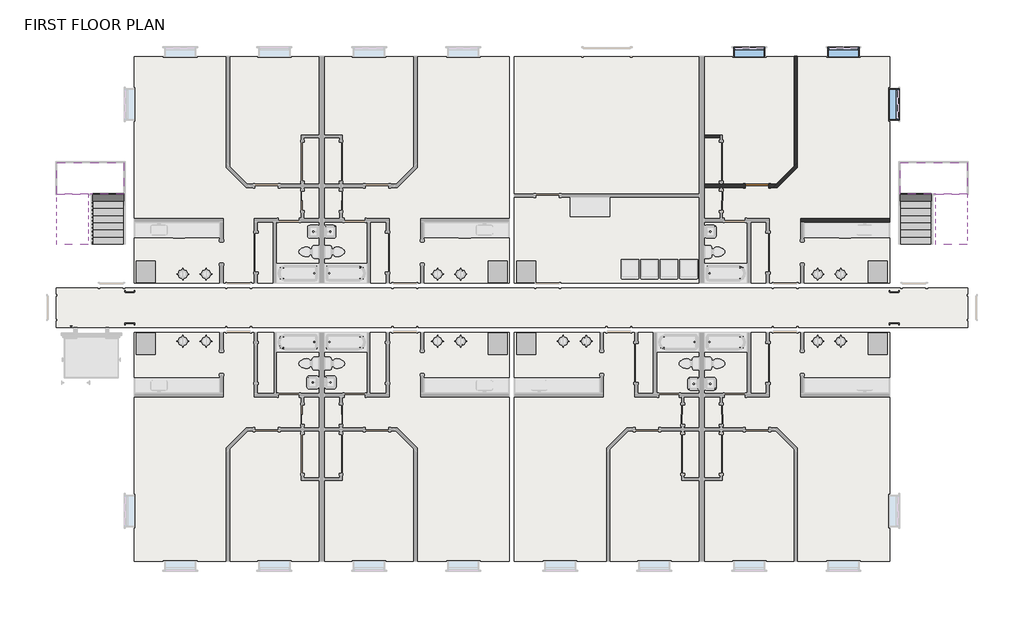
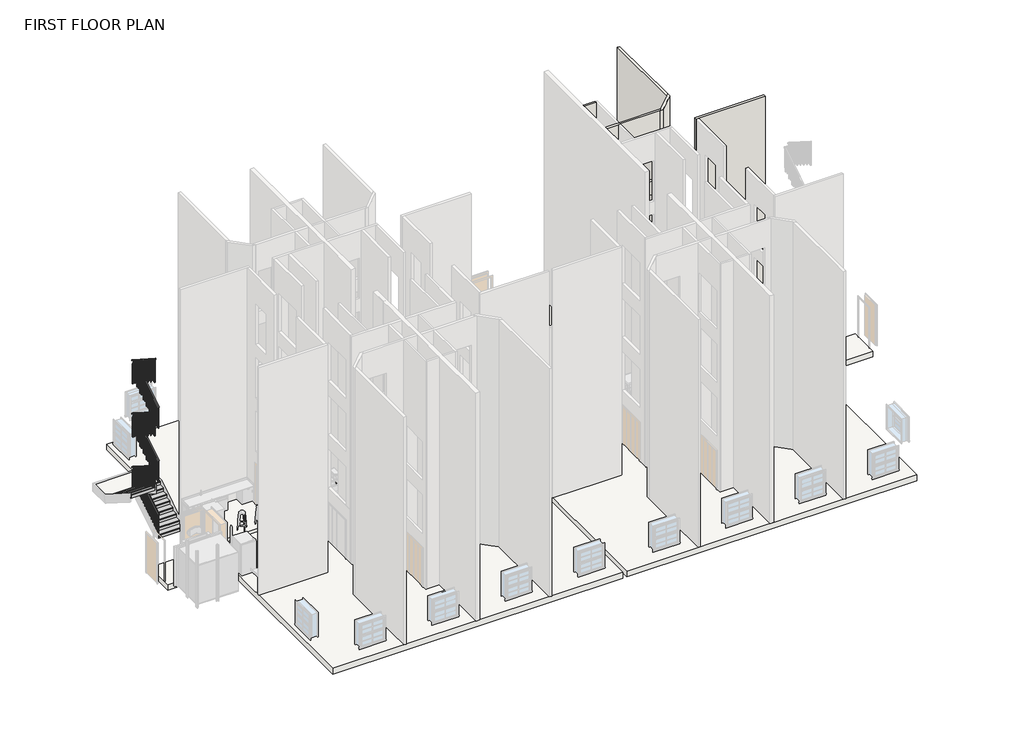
# One storey, part 4 of 7: 5 walls, 4 stair flights, 3 slabs, 3 windows, 1 door, 1 railing.
"""IFC4 building model written with IfcOpenShell, lengths in millimetres."""

from ifc_helpers import new_model, si_unit, frame, origin, origin_with_axes, place, context, project, spatial, polyline, outline, extrude, faceted_brep, transform, mapped, element, save
from components import m_single_flush_3_x_7_d4803db9, non_monolithic_landing_3aaa77b9, non_monolithic_landing_68e59602, stair_flight_54686f99, stair_flight_03273884, stair_flight_f8b69583, stair_flight_ad402a87, window_28d7aabf

model = new_model("IFC4")

# Units and contexts
model_context = context("Model", 3, world=origin())
ifc_project = project(units=[si_unit("LENGTHUNIT", "METRE", prefix="MILLI")], contexts=[model_context])

# Site, building, storey
site = spatial("IfcSite", under=ifc_project)
building = spatial("IfcBuilding", under=site)
storey = spatial("IfcBuildingStorey", under=building, Name="FIRST FLOOR PLAN", Elevation=0.0)

# Door
placement = place(None, origin())
m_single_flush_3_x_7_shape = m_single_flush_3_x_7_d4803db9(model_context)
element("IfcDoor", 1, ObjectType="M_Single-Flush : 3' x 7'", at=placement, inside=storey, context=model_context, shape_type="MappedRepresentation", body=[
    mapped(m_single_flush_3_x_7_shape, transform((19089.7959875, 10252.9512881, 0.0), x_axis=(1.0, 0.0, 0.0), y_axis=(0.0, 1.0, 0.0), z_axis=(0.0, 0.0, 1.0))),
])

# Railing
element("IfcRailing", 2, ObjectType="1100mm", at=placement, inside=storey, context=model_context, shape_type="SweptSolid", body=[
    extrude(outline(polyline([(0.0, -50.0), (0.0, 0.0), (2318.2283753, 0.0), (2318.2283753, -50.0), (0.0, -50.0)])), frame((-6841.4915125, 8008.8443747, 6925.2169259), z_axis=(0.0, -0.5368754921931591, 0.8436614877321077), x_axis=(0.0, 0.8436614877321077, 0.5368754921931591)), (0.0, 0.0, 1.0), 50.0),
    extrude(outline(polyline([(-6791.4915125, 9963.2006), (-6791.4915125, 9913.2006), (-6969.406756, 9913.2006), (-6969.406756, 9963.2006), (-6791.4915125, 9963.2006)])), frame((0.0, 0.0, 8162.0000003), z_axis=(0.0, 0.0, 1.0), x_axis=(1.0, 0.0, 0.0)), (0.0, 0.0, 1.0), 50.0),
    extrude(outline(polyline([(9963.2006, 8373.6363639), (9963.2006, 8314.3708875), (7982.0006, 9575.1345239), (7982.0006, 9634.4000003), (9963.2006, 8373.6363639)])), frame((-7019.406756, 0.0, 0.0), z_axis=(1.0, 0.0, 0.0), x_axis=(0.0, 1.0, 0.0)), (0.0, 0.0, 1.0), 50.0),
    extrude(outline(polyline([(8064.7506, 8356.6000003), (8039.7506, 8356.6000003), (8039.7506, 9547.6500003), (8064.7506, 9531.7409094), (8064.7506, 8356.6000003)])), frame((-7006.906756, 0.0, 0.0), z_axis=(1.0, 0.0, 0.0), x_axis=(0.0, 1.0, 0.0)), (0.0, 0.0, 1.0), 25.0),
    extrude(outline(polyline([(8204.4506, 8356.6000003), (8179.4506, 8356.6000003), (8179.4506, 9458.7500003), (8204.4506, 9442.8409094), (8204.4506, 8356.6000003)])), frame((-7006.906756, 0.0, 0.0), z_axis=(1.0, 0.0, 0.0), x_axis=(0.0, 1.0, 0.0)), (0.0, 0.0, 1.0), 25.0),
    extrude(outline(polyline([(8344.1506, 8178.8000003), (8319.1506, 8178.8000003), (8319.1506, 9369.8500003), (8344.1506, 9353.9409094), (8344.1506, 8178.8000003)])), frame((-7006.906756, 0.0, 0.0), z_axis=(1.0, 0.0, 0.0), x_axis=(0.0, 1.0, 0.0)), (0.0, 0.0, 1.0), 25.0),
    extrude(outline(polyline([(8483.8506, 8178.8000003), (8458.8506, 8178.8000003), (8458.8506, 9280.9500003), (8483.8506, 9265.0409094), (8483.8506, 8178.8000003)])), frame((-7006.906756, 0.0, 0.0), z_axis=(1.0, 0.0, 0.0), x_axis=(0.0, 1.0, 0.0)), (0.0, 0.0, 1.0), 25.0),
    extrude(outline(polyline([(8623.5506, 8001.0000003), (8598.5506, 8001.0000003), (8598.5506, 9192.0500003), (8623.5506, 9176.1409094), (8623.5506, 8001.0000003)])), frame((-7006.906756, 0.0, 0.0), z_axis=(1.0, 0.0, 0.0), x_axis=(0.0, 1.0, 0.0)), (0.0, 0.0, 1.0), 25.0),
    extrude(outline(polyline([(8763.2506, 8001.0000003), (8738.2506, 8001.0000003), (8738.2506, 9103.1500003), (8763.2506, 9087.2409094), (8763.2506, 8001.0000003)])), frame((-7006.906756, 0.0, 0.0), z_axis=(1.0, 0.0, 0.0), x_axis=(0.0, 1.0, 0.0)), (0.0, 0.0, 1.0), 25.0),
    extrude(outline(polyline([(8902.9506, 7823.2000003), (8877.9506, 7823.2000003), (8877.9506, 9014.2500003), (8902.9506, 8998.3409094), (8902.9506, 7823.2000003)])), frame((-7006.906756, 0.0, 0.0), z_axis=(1.0, 0.0, 0.0), x_axis=(0.0, 1.0, 0.0)), (0.0, 0.0, 1.0), 25.0),
    extrude(outline(polyline([(9042.6506, 7823.2000003), (9017.6506, 7823.2000003), (9017.6506, 8925.3500003), (9042.6506, 8909.4409094), (9042.6506, 7823.2000003)])), frame((-7006.906756, 0.0, 0.0), z_axis=(1.0, 0.0, 0.0), x_axis=(0.0, 1.0, 0.0)), (0.0, 0.0, 1.0), 25.0),
    extrude(outline(polyline([(9182.3506, 7645.4000003), (9157.3506, 7645.4000003), (9157.3506, 8836.4500003), (9182.3506, 8820.5409094), (9182.3506, 7645.4000003)])), frame((-7006.906756, 0.0, 0.0), z_axis=(1.0, 0.0, 0.0), x_axis=(0.0, 1.0, 0.0)), (0.0, 0.0, 1.0), 25.0),
    extrude(outline(polyline([(9322.0506, 7645.4000003), (9297.0506, 7645.4000003), (9297.0506, 8747.5500003), (9322.0506, 8731.6409094), (9322.0506, 7645.4000003)])), frame((-7006.906756, 0.0, 0.0), z_axis=(1.0, 0.0, 0.0), x_axis=(0.0, 1.0, 0.0)), (0.0, 0.0, 1.0), 25.0),
    extrude(outline(polyline([(9461.7506, 7467.6000003), (9436.7506, 7467.6000003), (9436.7506, 8658.6500003), (9461.7506, 8642.7409094), (9461.7506, 7467.6000003)])), frame((-7006.906756, 0.0, 0.0), z_axis=(1.0, 0.0, 0.0), x_axis=(0.0, 1.0, 0.0)), (0.0, 0.0, 1.0), 25.0),
    extrude(outline(polyline([(9601.4506, 7467.6000003), (9576.4506, 7467.6000003), (9576.4506, 8569.7500003), (9601.4506, 8553.8409094), (9601.4506, 7467.6000003)])), frame((-7006.906756, 0.0, 0.0), z_axis=(1.0, 0.0, 0.0), x_axis=(0.0, 1.0, 0.0)), (0.0, 0.0, 1.0), 25.0),
    extrude(outline(polyline([(9741.1506, 7289.8000003), (9716.1506, 7289.8000003), (9716.1506, 8480.8500003), (9741.1506, 8464.9409094), (9741.1506, 7289.8000003)])), frame((-7006.906756, 0.0, 0.0), z_axis=(1.0, 0.0, 0.0), x_axis=(0.0, 1.0, 0.0)), (0.0, 0.0, 1.0), 25.0),
    extrude(outline(polyline([(9880.8506, 7289.8000003), (9855.8506, 7289.8000003), (9855.8506, 8391.9500003), (9880.8506, 8376.0409094), (9880.8506, 7289.8000003)])), frame((-7006.906756, 0.0, 0.0), z_axis=(1.0, 0.0, 0.0), x_axis=(0.0, 1.0, 0.0)), (0.0, 0.0, 1.0), 25.0),
    extrude(outline(polyline([(-6873.8415125, 9925.7006), (-6898.8415125, 9925.7006), (-6898.8415125, 9950.7006), (-6873.8415125, 9950.7006), (-6873.8415125, 9925.7006)])), frame((0.0, 0.0, 7112.0000003), z_axis=(0.0, 0.0, 1.0), x_axis=(1.0, 0.0, 0.0)), (0.0, 0.0, 1.0), 1050.0),
    extrude(outline(polyline([(9855.4506, 8109.5954549), (9880.4506, 8125.5045458), (9880.4506, 6934.2000003), (9855.4506, 6934.2000003), (9855.4506, 8109.5954549)])), frame((-6828.9915125, 0.0, 0.0), z_axis=(1.0, 0.0, 0.0), x_axis=(0.0, 1.0, 0.0)), (0.0, 0.0, 1.0), 25.0),
    extrude(outline(polyline([(9715.7506, 8020.6954549), (9740.7506, 8036.6045458), (9740.7506, 6934.2000003), (9715.7506, 6934.2000003), (9715.7506, 8020.6954549)])), frame((-6828.9915125, 0.0, 0.0), z_axis=(1.0, 0.0, 0.0), x_axis=(0.0, 1.0, 0.0)), (0.0, 0.0, 1.0), 25.0),
    extrude(outline(polyline([(9576.0506, 7931.7954549), (9601.0506, 7947.7045458), (9601.0506, 6756.4000003), (9576.0506, 6756.4000003), (9576.0506, 7931.7954549)])), frame((-6828.9915125, 0.0, 0.0), z_axis=(1.0, 0.0, 0.0), x_axis=(0.0, 1.0, 0.0)), (0.0, 0.0, 1.0), 25.0),
    extrude(outline(polyline([(9436.3506, 7842.8954549), (9461.3506, 7858.8045458), (9461.3506, 6756.4000003), (9436.3506, 6756.4000003), (9436.3506, 7842.8954549)])), frame((-6828.9915125, 0.0, 0.0), z_axis=(1.0, 0.0, 0.0), x_axis=(0.0, 1.0, 0.0)), (0.0, 0.0, 1.0), 25.0),
    extrude(outline(polyline([(9296.6506, 7753.9954549), (9321.6506, 7769.9045458), (9321.6506, 6578.6000003), (9296.6506, 6578.6000003), (9296.6506, 7753.9954549)])), frame((-6828.9915125, 0.0, 0.0), z_axis=(1.0, 0.0, 0.0), x_axis=(0.0, 1.0, 0.0)), (0.0, 0.0, 1.0), 25.0),
    extrude(outline(polyline([(9156.9506, 7665.0954549), (9181.9506, 7681.0045458), (9181.9506, 6578.6000003), (9156.9506, 6578.6000003), (9156.9506, 7665.0954549)])), frame((-6828.9915125, 0.0, 0.0), z_axis=(1.0, 0.0, 0.0), x_axis=(0.0, 1.0, 0.0)), (0.0, 0.0, 1.0), 25.0),
    extrude(outline(polyline([(9017.2506, 7576.1954549), (9042.2506, 7592.1045458), (9042.2506, 6400.8000003), (9017.2506, 6400.8000003), (9017.2506, 7576.1954549)])), frame((-6828.9915125, 0.0, 0.0), z_axis=(1.0, 0.0, 0.0), x_axis=(0.0, 1.0, 0.0)), (0.0, 0.0, 1.0), 25.0),
    extrude(outline(polyline([(8877.5506, 7487.2954549), (8902.5506, 7503.2045458), (8902.5506, 6400.8000003), (8877.5506, 6400.8000003), (8877.5506, 7487.2954549)])), frame((-6828.9915125, 0.0, 0.0), z_axis=(1.0, 0.0, 0.0), x_axis=(0.0, 1.0, 0.0)), (0.0, 0.0, 1.0), 25.0),
    extrude(outline(polyline([(8737.8506, 7398.3954549), (8762.8506, 7414.3045458), (8762.8506, 6223.0000003), (8737.8506, 6223.0000003), (8737.8506, 7398.3954549)])), frame((-6828.9915125, 0.0, 0.0), z_axis=(1.0, 0.0, 0.0), x_axis=(0.0, 1.0, 0.0)), (0.0, 0.0, 1.0), 25.0),
    extrude(outline(polyline([(8598.1506, 7309.4954549), (8623.1506, 7325.4045458), (8623.1506, 6223.0000003), (8598.1506, 6223.0000003), (8598.1506, 7309.4954549)])), frame((-6828.9915125, 0.0, 0.0), z_axis=(1.0, 0.0, 0.0), x_axis=(0.0, 1.0, 0.0)), (0.0, 0.0, 1.0), 25.0),
    extrude(outline(polyline([(8458.4506, 7220.5954549), (8483.4506, 7236.5045458), (8483.4506, 6045.2000003), (8458.4506, 6045.2000003), (8458.4506, 7220.5954549)])), frame((-6828.9915125, 0.0, 0.0), z_axis=(1.0, 0.0, 0.0), x_axis=(0.0, 1.0, 0.0)), (0.0, 0.0, 1.0), 25.0),
    extrude(outline(polyline([(8318.7506, 7131.6954549), (8343.7506, 7147.6045458), (8343.7506, 6045.2000003), (8318.7506, 6045.2000003), (8318.7506, 7131.6954549)])), frame((-6828.9915125, 0.0, 0.0), z_axis=(1.0, 0.0, 0.0), x_axis=(0.0, 1.0, 0.0)), (0.0, 0.0, 1.0), 25.0),
    extrude(outline(polyline([(8179.0506, 7042.7954549), (8204.0506, 7058.7045458), (8204.0506, 5867.4000003), (8179.0506, 5867.4000003), (8179.0506, 7042.7954549)])), frame((-6828.9915125, 0.0, 0.0), z_axis=(1.0, 0.0, 0.0), x_axis=(0.0, 1.0, 0.0)), (0.0, 0.0, 1.0), 25.0),
    extrude(outline(polyline([(8039.3506, 6953.8954549), (8064.3506, 6969.8045458), (8064.3506, 5867.4000003), (8039.3506, 5867.4000003), (8039.3506, 6953.8954549)])), frame((-6828.9915125, 0.0, 0.0), z_axis=(1.0, 0.0, 0.0), x_axis=(0.0, 1.0, 0.0)), (0.0, 0.0, 1.0), 25.0),
    extrude(outline(polyline([(-6981.906756, 9925.7006), (-7006.906756, 9925.7006), (-7006.906756, 9950.7006), (-6981.906756, 9950.7006), (-6981.906756, 9925.7006)])), frame((0.0, 0.0, 7112.0000003), z_axis=(0.0, 0.0, 1.0), x_axis=(1.0, 0.0, 0.0)), (0.0, 0.0, 1.0), 1050.0),
    extrude(outline(polyline([(-6828.9915125, 9925.7006), (-6828.9915125, 9950.7006), (-6803.9915125, 9950.7006), (-6803.9915125, 9925.7006), (-6828.9915125, 9925.7006)])), frame((0.0, 0.0, 7112.0000003), z_axis=(0.0, 0.0, 1.0), x_axis=(1.0, 0.0, 0.0)), (0.0, 0.0, 1.0), 1050.0),
    extrude(outline(polyline([(8007.0006, 8356.6000003), (7982.0006, 8356.6000003), (7982.0006, 9584.4000003), (8007.0006, 9568.4909094), (8007.0006, 8356.6000003)])), frame((-7006.906756, 0.0, 0.0), z_axis=(1.0, 0.0, 0.0), x_axis=(0.0, 1.0, 0.0)), (0.0, 0.0, 1.0), 25.0),
    extrude(outline(polyline([(7982.0006, 6917.4000003), (8007.0006, 6933.3090912), (8007.0006, 5867.4000003), (7982.0006, 5867.4000003), (7982.0006, 6917.4000003)])), frame((-6828.9915125, 0.0, 0.0), z_axis=(1.0, 0.0, 0.0), x_axis=(0.0, 1.0, 0.0)), (0.0, 0.0, 1.0), 25.0),
    extrude(outline(polyline([(0.0, -50.0), (0.0, 0.0), (2318.2283753, 0.0), (2318.2283753, -50.0), (0.0, -50.0)])), frame((-6841.4915125, 8008.8443747, 4080.4169259), z_axis=(0.0, -0.5368754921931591, 0.8436614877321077), x_axis=(0.0, 0.8436614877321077, 0.5368754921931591)), (0.0, 0.0, 1.0), 50.0),
    extrude(outline(polyline([(-6791.4915125, 9963.2006), (-6791.4915125, 9913.2006), (-6969.406756, 9913.2006), (-6969.406756, 9963.2006), (-6791.4915125, 9963.2006)])), frame((0.0, 0.0, 5317.2000003), z_axis=(0.0, 0.0, 1.0), x_axis=(1.0, 0.0, 0.0)), (0.0, 0.0, 1.0), 50.0),
    extrude(outline(polyline([(9963.2006, 5528.8363639), (9963.2006, 5469.5708875), (7982.0006, 6730.3345239), (7982.0006, 6789.6000003), (9963.2006, 5528.8363639)])), frame((-7019.406756, 0.0, 0.0), z_axis=(1.0, 0.0, 0.0), x_axis=(0.0, 1.0, 0.0)), (0.0, 0.0, 1.0), 50.0),
    extrude(outline(polyline([(8064.7506, 5511.8000003), (8039.7506, 5511.8000003), (8039.7506, 6702.8500003), (8064.7506, 6686.9409094), (8064.7506, 5511.8000003)])), frame((-7006.906756, 0.0, 0.0), z_axis=(1.0, 0.0, 0.0), x_axis=(0.0, 1.0, 0.0)), (0.0, 0.0, 1.0), 25.0),
    extrude(outline(polyline([(8204.4506, 5511.8000003), (8179.4506, 5511.8000003), (8179.4506, 6613.9500003), (8204.4506, 6598.0409094), (8204.4506, 5511.8000003)])), frame((-7006.906756, 0.0, 0.0), z_axis=(1.0, 0.0, 0.0), x_axis=(0.0, 1.0, 0.0)), (0.0, 0.0, 1.0), 25.0),
    extrude(outline(polyline([(8344.1506, 5334.0000003), (8319.1506, 5334.0000003), (8319.1506, 6525.0500003), (8344.1506, 6509.1409094), (8344.1506, 5334.0000003)])), frame((-7006.906756, 0.0, 0.0), z_axis=(1.0, 0.0, 0.0), x_axis=(0.0, 1.0, 0.0)), (0.0, 0.0, 1.0), 25.0),
    extrude(outline(polyline([(8483.8506, 5334.0000003), (8458.8506, 5334.0000003), (8458.8506, 6436.1500003), (8483.8506, 6420.2409094), (8483.8506, 5334.0000003)])), frame((-7006.906756, 0.0, 0.0), z_axis=(1.0, 0.0, 0.0), x_axis=(0.0, 1.0, 0.0)), (0.0, 0.0, 1.0), 25.0),
    extrude(outline(polyline([(8623.5506, 5156.2000003), (8598.5506, 5156.2000003), (8598.5506, 6347.2500003), (8623.5506, 6331.3409094), (8623.5506, 5156.2000003)])), frame((-7006.906756, 0.0, 0.0), z_axis=(1.0, 0.0, 0.0), x_axis=(0.0, 1.0, 0.0)), (0.0, 0.0, 1.0), 25.0),
    extrude(outline(polyline([(8763.2506, 5156.2000003), (8738.2506, 5156.2000003), (8738.2506, 6258.3500003), (8763.2506, 6242.4409094), (8763.2506, 5156.2000003)])), frame((-7006.906756, 0.0, 0.0), z_axis=(1.0, 0.0, 0.0), x_axis=(0.0, 1.0, 0.0)), (0.0, 0.0, 1.0), 25.0),
    extrude(outline(polyline([(8902.9506, 4978.4000003), (8877.9506, 4978.4000003), (8877.9506, 6169.4500003), (8902.9506, 6153.5409094), (8902.9506, 4978.4000003)])), frame((-7006.906756, 0.0, 0.0), z_axis=(1.0, 0.0, 0.0), x_axis=(0.0, 1.0, 0.0)), (0.0, 0.0, 1.0), 25.0),
    extrude(outline(polyline([(9042.6506, 4978.4000003), (9017.6506, 4978.4000003), (9017.6506, 6080.5500003), (9042.6506, 6064.6409094), (9042.6506, 4978.4000003)])), frame((-7006.906756, 0.0, 0.0), z_axis=(1.0, 0.0, 0.0), x_axis=(0.0, 1.0, 0.0)), (0.0, 0.0, 1.0), 25.0),
    extrude(outline(polyline([(9182.3506, 4800.6000003), (9157.3506, 4800.6000003), (9157.3506, 5991.6500003), (9182.3506, 5975.7409094), (9182.3506, 4800.6000003)])), frame((-7006.906756, 0.0, 0.0), z_axis=(1.0, 0.0, 0.0), x_axis=(0.0, 1.0, 0.0)), (0.0, 0.0, 1.0), 25.0),
    extrude(outline(polyline([(9322.0506, 4800.6000003), (9297.0506, 4800.6000003), (9297.0506, 5902.7500003), (9322.0506, 5886.8409094), (9322.0506, 4800.6000003)])), frame((-7006.906756, 0.0, 0.0), z_axis=(1.0, 0.0, 0.0), x_axis=(0.0, 1.0, 0.0)), (0.0, 0.0, 1.0), 25.0),
    extrude(outline(polyline([(9461.7506, 4622.8000003), (9436.7506, 4622.8000003), (9436.7506, 5813.8500003), (9461.7506, 5797.9409094), (9461.7506, 4622.8000003)])), frame((-7006.906756, 0.0, 0.0), z_axis=(1.0, 0.0, 0.0), x_axis=(0.0, 1.0, 0.0)), (0.0, 0.0, 1.0), 25.0),
    extrude(outline(polyline([(9601.4506, 4622.8000003), (9576.4506, 4622.8000003), (9576.4506, 5724.9500003), (9601.4506, 5709.0409094), (9601.4506, 4622.8000003)])), frame((-7006.906756, 0.0, 0.0), z_axis=(1.0, 0.0, 0.0), x_axis=(0.0, 1.0, 0.0)), (0.0, 0.0, 1.0), 25.0),
    extrude(outline(polyline([(9741.1506, 4445.0000003), (9716.1506, 4445.0000003), (9716.1506, 5636.0500003), (9741.1506, 5620.1409094), (9741.1506, 4445.0000003)])), frame((-7006.906756, 0.0, 0.0), z_axis=(1.0, 0.0, 0.0), x_axis=(0.0, 1.0, 0.0)), (0.0, 0.0, 1.0), 25.0),
    extrude(outline(polyline([(9880.8506, 4445.0000003), (9855.8506, 4445.0000003), (9855.8506, 5547.1500003), (9880.8506, 5531.2409094), (9880.8506, 4445.0000003)])), frame((-7006.906756, 0.0, 0.0), z_axis=(1.0, 0.0, 0.0), x_axis=(0.0, 1.0, 0.0)), (0.0, 0.0, 1.0), 25.0),
    extrude(outline(polyline([(-6873.8415125, 9925.7006), (-6898.8415125, 9925.7006), (-6898.8415125, 9950.7006), (-6873.8415125, 9950.7006), (-6873.8415125, 9925.7006)])), frame((0.0, 0.0, 4267.2000003), z_axis=(0.0, 0.0, 1.0), x_axis=(1.0, 0.0, 0.0)), (0.0, 0.0, 1.0), 1050.0),
    extrude(outline(polyline([(9855.4506, 5264.7954549), (9880.4506, 5280.7045458), (9880.4506, 4089.4000003), (9855.4506, 4089.4000003), (9855.4506, 5264.7954549)])), frame((-6828.9915125, 0.0, 0.0), z_axis=(1.0, 0.0, 0.0), x_axis=(0.0, 1.0, 0.0)), (0.0, 0.0, 1.0), 25.0),
    extrude(outline(polyline([(9715.7506, 5175.8954549), (9740.7506, 5191.8045458), (9740.7506, 4089.4000003), (9715.7506, 4089.4000003), (9715.7506, 5175.8954549)])), frame((-6828.9915125, 0.0, 0.0), z_axis=(1.0, 0.0, 0.0), x_axis=(0.0, 1.0, 0.0)), (0.0, 0.0, 1.0), 25.0),
    extrude(outline(polyline([(9576.0506, 5086.9954549), (9601.0506, 5102.9045458), (9601.0506, 3911.6000003), (9576.0506, 3911.6000003), (9576.0506, 5086.9954549)])), frame((-6828.9915125, 0.0, 0.0), z_axis=(1.0, 0.0, 0.0), x_axis=(0.0, 1.0, 0.0)), (0.0, 0.0, 1.0), 25.0),
    extrude(outline(polyline([(9436.3506, 4998.0954549), (9461.3506, 5014.0045458), (9461.3506, 3911.6000003), (9436.3506, 3911.6000003), (9436.3506, 4998.0954549)])), frame((-6828.9915125, 0.0, 0.0), z_axis=(1.0, 0.0, 0.0), x_axis=(0.0, 1.0, 0.0)), (0.0, 0.0, 1.0), 25.0),
    extrude(outline(polyline([(9296.6506, 4909.1954549), (9321.6506, 4925.1045458), (9321.6506, 3733.8000003), (9296.6506, 3733.8000003), (9296.6506, 4909.1954549)])), frame((-6828.9915125, 0.0, 0.0), z_axis=(1.0, 0.0, 0.0), x_axis=(0.0, 1.0, 0.0)), (0.0, 0.0, 1.0), 25.0),
    extrude(outline(polyline([(9156.9506, 4820.2954549), (9181.9506, 4836.2045458), (9181.9506, 3733.8000003), (9156.9506, 3733.8000003), (9156.9506, 4820.2954549)])), frame((-6828.9915125, 0.0, 0.0), z_axis=(1.0, 0.0, 0.0), x_axis=(0.0, 1.0, 0.0)), (0.0, 0.0, 1.0), 25.0),
    extrude(outline(polyline([(9017.2506, 4731.3954549), (9042.2506, 4747.3045458), (9042.2506, 3556.0000003), (9017.2506, 3556.0000003), (9017.2506, 4731.3954549)])), frame((-6828.9915125, 0.0, 0.0), z_axis=(1.0, 0.0, 0.0), x_axis=(0.0, 1.0, 0.0)), (0.0, 0.0, 1.0), 25.0),
    extrude(outline(polyline([(8877.5506, 4642.4954549), (8902.5506, 4658.4045458), (8902.5506, 3556.0000003), (8877.5506, 3556.0000003), (8877.5506, 4642.4954549)])), frame((-6828.9915125, 0.0, 0.0), z_axis=(1.0, 0.0, 0.0), x_axis=(0.0, 1.0, 0.0)), (0.0, 0.0, 1.0), 25.0),
    extrude(outline(polyline([(8737.8506, 4553.5954549), (8762.8506, 4569.5045458), (8762.8506, 3378.2000003), (8737.8506, 3378.2000003), (8737.8506, 4553.5954549)])), frame((-6828.9915125, 0.0, 0.0), z_axis=(1.0, 0.0, 0.0), x_axis=(0.0, 1.0, 0.0)), (0.0, 0.0, 1.0), 25.0),
    extrude(outline(polyline([(8598.1506, 4464.6954549), (8623.1506, 4480.6045458), (8623.1506, 3378.2000003), (8598.1506, 3378.2000003), (8598.1506, 4464.6954549)])), frame((-6828.9915125, 0.0, 0.0), z_axis=(1.0, 0.0, 0.0), x_axis=(0.0, 1.0, 0.0)), (0.0, 0.0, 1.0), 25.0),
    extrude(outline(polyline([(8458.4506, 4375.7954549), (8483.4506, 4391.7045458), (8483.4506, 3200.4000003), (8458.4506, 3200.4000003), (8458.4506, 4375.7954549)])), frame((-6828.9915125, 0.0, 0.0), z_axis=(1.0, 0.0, 0.0), x_axis=(0.0, 1.0, 0.0)), (0.0, 0.0, 1.0), 25.0),
    extrude(outline(polyline([(8318.7506, 4286.8954549), (8343.7506, 4302.8045458), (8343.7506, 3200.4000003), (8318.7506, 3200.4000003), (8318.7506, 4286.8954549)])), frame((-6828.9915125, 0.0, 0.0), z_axis=(1.0, 0.0, 0.0), x_axis=(0.0, 1.0, 0.0)), (0.0, 0.0, 1.0), 25.0),
    extrude(outline(polyline([(8179.0506, 4197.9954549), (8204.0506, 4213.9045458), (8204.0506, 3022.6000003), (8179.0506, 3022.6000003), (8179.0506, 4197.9954549)])), frame((-6828.9915125, 0.0, 0.0), z_axis=(1.0, 0.0, 0.0), x_axis=(0.0, 1.0, 0.0)), (0.0, 0.0, 1.0), 25.0),
    extrude(outline(polyline([(8039.3506, 4109.0954549), (8064.3506, 4125.0045458), (8064.3506, 3022.6000003), (8039.3506, 3022.6000003), (8039.3506, 4109.0954549)])), frame((-6828.9915125, 0.0, 0.0), z_axis=(1.0, 0.0, 0.0), x_axis=(0.0, 1.0, 0.0)), (0.0, 0.0, 1.0), 25.0),
    extrude(outline(polyline([(-6981.906756, 9925.7006), (-7006.906756, 9925.7006), (-7006.906756, 9950.7006), (-6981.906756, 9950.7006), (-6981.906756, 9925.7006)])), frame((0.0, 0.0, 4267.2000003), z_axis=(0.0, 0.0, 1.0), x_axis=(1.0, 0.0, 0.0)), (0.0, 0.0, 1.0), 1050.0),
    extrude(outline(polyline([(-6828.9915125, 9925.7006), (-6828.9915125, 9950.7006), (-6803.9915125, 9950.7006), (-6803.9915125, 9925.7006), (-6828.9915125, 9925.7006)])), frame((0.0, 0.0, 4267.2000003), z_axis=(0.0, 0.0, 1.0), x_axis=(1.0, 0.0, 0.0)), (0.0, 0.0, 1.0), 1050.0),
    extrude(outline(polyline([(8007.0006, 5511.8000003), (7982.0006, 5511.8000003), (7982.0006, 6739.6000003), (8007.0006, 6723.6909094), (8007.0006, 5511.8000003)])), frame((-7006.906756, 0.0, 0.0), z_axis=(1.0, 0.0, 0.0), x_axis=(0.0, 1.0, 0.0)), (0.0, 0.0, 1.0), 25.0),
    extrude(outline(polyline([(7982.0006, 4072.6000003), (8007.0006, 4088.5090912), (8007.0006, 3022.6000003), (7982.0006, 3022.6000003), (7982.0006, 4072.6000003)])), frame((-6828.9915125, 0.0, 0.0), z_axis=(1.0, 0.0, 0.0), x_axis=(0.0, 1.0, 0.0)), (0.0, 0.0, 1.0), 25.0),
    extrude(outline(polyline([(0.0, -50.0), (0.0, 0.0), (2318.2283753, 0.0), (2318.2283753, -50.0), (0.0, -50.0)])), frame((-6841.4915125, 8008.8443747, 1235.6169256), z_axis=(0.0, -0.5368754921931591, 0.8436614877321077), x_axis=(0.0, 0.8436614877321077, 0.5368754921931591)), (0.0, 0.0, 1.0), 50.0),
    extrude(outline(polyline([(-6791.4915125, 9963.2006), (-6791.4915125, 9913.2006), (-6969.406756, 9913.2006), (-6969.406756, 9963.2006), (-6791.4915125, 9963.2006)])), frame((0.0, 0.0, 2472.4), z_axis=(0.0, 0.0, 1.0), x_axis=(1.0, 0.0, 0.0)), (0.0, 0.0, 1.0), 50.0),
    extrude(outline(polyline([(9963.2006, 2684.0363636), (9963.2006, 2624.7708872), (7982.0006, 3885.5345236), (7982.0006, 3944.8), (9963.2006, 2684.0363636)])), frame((-7019.406756, 0.0, 0.0), z_axis=(1.0, 0.0, 0.0), x_axis=(0.0, 1.0, 0.0)), (0.0, 0.0, 1.0), 50.0),
    extrude(outline(polyline([(8064.7506, 2667.0), (8039.7506, 2667.0), (8039.7506, 3858.05), (8064.7506, 3842.1409091), (8064.7506, 2667.0)])), frame((-7006.906756, 0.0, 0.0), z_axis=(1.0, 0.0, 0.0), x_axis=(0.0, 1.0, 0.0)), (0.0, 0.0, 1.0), 25.0),
    extrude(outline(polyline([(8204.4506, 2667.0), (8179.4506, 2667.0), (8179.4506, 3769.15), (8204.4506, 3753.2409091), (8204.4506, 2667.0)])), frame((-7006.906756, 0.0, 0.0), z_axis=(1.0, 0.0, 0.0), x_axis=(0.0, 1.0, 0.0)), (0.0, 0.0, 1.0), 25.0),
    extrude(outline(polyline([(8344.1506, 2489.2), (8319.1506, 2489.2), (8319.1506, 3680.25), (8344.1506, 3664.3409091), (8344.1506, 2489.2)])), frame((-7006.906756, 0.0, 0.0), z_axis=(1.0, 0.0, 0.0), x_axis=(0.0, 1.0, 0.0)), (0.0, 0.0, 1.0), 25.0),
    extrude(outline(polyline([(8483.8506, 2489.2), (8458.8506, 2489.2), (8458.8506, 3591.35), (8483.8506, 3575.4409091), (8483.8506, 2489.2)])), frame((-7006.906756, 0.0, 0.0), z_axis=(1.0, 0.0, 0.0), x_axis=(0.0, 1.0, 0.0)), (0.0, 0.0, 1.0), 25.0),
    extrude(outline(polyline([(8623.5506, 2311.4), (8598.5506, 2311.4), (8598.5506, 3502.45), (8623.5506, 3486.5409091), (8623.5506, 2311.4)])), frame((-7006.906756, 0.0, 0.0), z_axis=(1.0, 0.0, 0.0), x_axis=(0.0, 1.0, 0.0)), (0.0, 0.0, 1.0), 25.0),
    extrude(outline(polyline([(8763.2506, 2311.4), (8738.2506, 2311.4), (8738.2506, 3413.55), (8763.2506, 3397.6409091), (8763.2506, 2311.4)])), frame((-7006.906756, 0.0, 0.0), z_axis=(1.0, 0.0, 0.0), x_axis=(0.0, 1.0, 0.0)), (0.0, 0.0, 1.0), 25.0),
    extrude(outline(polyline([(8902.9506, 2133.6), (8877.9506, 2133.6), (8877.9506, 3324.65), (8902.9506, 3308.7409091), (8902.9506, 2133.6)])), frame((-7006.906756, 0.0, 0.0), z_axis=(1.0, 0.0, 0.0), x_axis=(0.0, 1.0, 0.0)), (0.0, 0.0, 1.0), 25.0),
    extrude(outline(polyline([(9042.6506, 2133.6), (9017.6506, 2133.6), (9017.6506, 3235.75), (9042.6506, 3219.8409091), (9042.6506, 2133.6)])), frame((-7006.906756, 0.0, 0.0), z_axis=(1.0, 0.0, 0.0), x_axis=(0.0, 1.0, 0.0)), (0.0, 0.0, 1.0), 25.0),
    extrude(outline(polyline([(9182.3506, 1955.8), (9157.3506, 1955.8), (9157.3506, 3146.85), (9182.3506, 3130.9409091), (9182.3506, 1955.8)])), frame((-7006.906756, 0.0, 0.0), z_axis=(1.0, 0.0, 0.0), x_axis=(0.0, 1.0, 0.0)), (0.0, 0.0, 1.0), 25.0),
    extrude(outline(polyline([(9322.0506, 1955.8), (9297.0506, 1955.8), (9297.0506, 3057.95), (9322.0506, 3042.0409091), (9322.0506, 1955.8)])), frame((-7006.906756, 0.0, 0.0), z_axis=(1.0, 0.0, 0.0), x_axis=(0.0, 1.0, 0.0)), (0.0, 0.0, 1.0), 25.0),
    extrude(outline(polyline([(9461.7506, 1778.0), (9436.7506, 1778.0), (9436.7506, 2969.05), (9461.7506, 2953.1409091), (9461.7506, 1778.0)])), frame((-7006.906756, 0.0, 0.0), z_axis=(1.0, 0.0, 0.0), x_axis=(0.0, 1.0, 0.0)), (0.0, 0.0, 1.0), 25.0),
    extrude(outline(polyline([(9601.4506, 1778.0), (9576.4506, 1778.0), (9576.4506, 2880.15), (9601.4506, 2864.2409091), (9601.4506, 1778.0)])), frame((-7006.906756, 0.0, 0.0), z_axis=(1.0, 0.0, 0.0), x_axis=(0.0, 1.0, 0.0)), (0.0, 0.0, 1.0), 25.0),
    extrude(outline(polyline([(9741.1506, 1600.2), (9716.1506, 1600.2), (9716.1506, 2791.25), (9741.1506, 2775.3409091), (9741.1506, 1600.2)])), frame((-7006.906756, 0.0, 0.0), z_axis=(1.0, 0.0, 0.0), x_axis=(0.0, 1.0, 0.0)), (0.0, 0.0, 1.0), 25.0),
    extrude(outline(polyline([(9880.8506, 1600.2), (9855.8506, 1600.2), (9855.8506, 2702.35), (9880.8506, 2686.4409091), (9880.8506, 1600.2)])), frame((-7006.906756, 0.0, 0.0), z_axis=(1.0, 0.0, 0.0), x_axis=(0.0, 1.0, 0.0)), (0.0, 0.0, 1.0), 25.0),
    extrude(outline(polyline([(-6873.8415125, 9925.7006), (-6898.8415125, 9925.7006), (-6898.8415125, 9950.7006), (-6873.8415125, 9950.7006), (-6873.8415125, 9925.7006)])), frame((0.0, 0.0, 1422.4), z_axis=(0.0, 0.0, 1.0), x_axis=(1.0, 0.0, 0.0)), (0.0, 0.0, 1.0), 1050.0),
    extrude(outline(polyline([(9855.4506, 2419.9954545), (9880.4506, 2435.9045455), (9880.4506, 1244.6), (9855.4506, 1244.6), (9855.4506, 2419.9954545)])), frame((-6828.9915125, 0.0, 0.0), z_axis=(1.0, 0.0, 0.0), x_axis=(0.0, 1.0, 0.0)), (0.0, 0.0, 1.0), 25.0),
    extrude(outline(polyline([(9715.7506, 2331.0954545), (9740.7506, 2347.0045455), (9740.7506, 1244.6), (9715.7506, 1244.6), (9715.7506, 2331.0954545)])), frame((-6828.9915125, 0.0, 0.0), z_axis=(1.0, 0.0, 0.0), x_axis=(0.0, 1.0, 0.0)), (0.0, 0.0, 1.0), 25.0),
    extrude(outline(polyline([(9576.0506, 2242.1954545), (9601.0506, 2258.1045455), (9601.0506, 1066.8), (9576.0506, 1066.8), (9576.0506, 2242.1954545)])), frame((-6828.9915125, 0.0, 0.0), z_axis=(1.0, 0.0, 0.0), x_axis=(0.0, 1.0, 0.0)), (0.0, 0.0, 1.0), 25.0),
    extrude(outline(polyline([(9436.3506, 2153.2954545), (9461.3506, 2169.2045455), (9461.3506, 1066.8), (9436.3506, 1066.8), (9436.3506, 2153.2954545)])), frame((-6828.9915125, 0.0, 0.0), z_axis=(1.0, 0.0, 0.0), x_axis=(0.0, 1.0, 0.0)), (0.0, 0.0, 1.0), 25.0),
    extrude(outline(polyline([(9296.6506, 2064.3954545), (9321.6506, 2080.3045455), (9321.6506, 889.0), (9296.6506, 889.0), (9296.6506, 2064.3954545)])), frame((-6828.9915125, 0.0, 0.0), z_axis=(1.0, 0.0, 0.0), x_axis=(0.0, 1.0, 0.0)), (0.0, 0.0, 1.0), 25.0),
    extrude(outline(polyline([(9156.9506, 1975.4954545), (9181.9506, 1991.4045455), (9181.9506, 889.0), (9156.9506, 889.0), (9156.9506, 1975.4954545)])), frame((-6828.9915125, 0.0, 0.0), z_axis=(1.0, 0.0, 0.0), x_axis=(0.0, 1.0, 0.0)), (0.0, 0.0, 1.0), 25.0),
    extrude(outline(polyline([(9017.2506, 1886.5954545), (9042.2506, 1902.5045455), (9042.2506, 711.2), (9017.2506, 711.2), (9017.2506, 1886.5954545)])), frame((-6828.9915125, 0.0, 0.0), z_axis=(1.0, 0.0, 0.0), x_axis=(0.0, 1.0, 0.0)), (0.0, 0.0, 1.0), 25.0),
    extrude(outline(polyline([(8877.5506, 1797.6954545), (8902.5506, 1813.6045455), (8902.5506, 711.2), (8877.5506, 711.2), (8877.5506, 1797.6954545)])), frame((-6828.9915125, 0.0, 0.0), z_axis=(1.0, 0.0, 0.0), x_axis=(0.0, 1.0, 0.0)), (0.0, 0.0, 1.0), 25.0),
    extrude(outline(polyline([(8737.8506, 1708.7954545), (8762.8506, 1724.7045455), (8762.8506, 533.4), (8737.8506, 533.4), (8737.8506, 1708.7954545)])), frame((-6828.9915125, 0.0, 0.0), z_axis=(1.0, 0.0, 0.0), x_axis=(0.0, 1.0, 0.0)), (0.0, 0.0, 1.0), 25.0),
    extrude(outline(polyline([(8598.1506, 1619.8954545), (8623.1506, 1635.8045455), (8623.1506, 533.4), (8598.1506, 533.4), (8598.1506, 1619.8954545)])), frame((-6828.9915125, 0.0, 0.0), z_axis=(1.0, 0.0, 0.0), x_axis=(0.0, 1.0, 0.0)), (0.0, 0.0, 1.0), 25.0),
    extrude(outline(polyline([(8458.4506, 1530.9954545), (8483.4506, 1546.9045455), (8483.4506, 355.6), (8458.4506, 355.6), (8458.4506, 1530.9954545)])), frame((-6828.9915125, 0.0, 0.0), z_axis=(1.0, 0.0, 0.0), x_axis=(0.0, 1.0, 0.0)), (0.0, 0.0, 1.0), 25.0),
    extrude(outline(polyline([(8318.7506, 1442.0954545), (8343.7506, 1458.0045455), (8343.7506, 355.6), (8318.7506, 355.6), (8318.7506, 1442.0954545)])), frame((-6828.9915125, 0.0, 0.0), z_axis=(1.0, 0.0, 0.0), x_axis=(0.0, 1.0, 0.0)), (0.0, 0.0, 1.0), 25.0),
    extrude(outline(polyline([(8179.0506, 1353.1954545), (8204.0506, 1369.1045455), (8204.0506, 177.8), (8179.0506, 177.8), (8179.0506, 1353.1954545)])), frame((-6828.9915125, 0.0, 0.0), z_axis=(1.0, 0.0, 0.0), x_axis=(0.0, 1.0, 0.0)), (0.0, 0.0, 1.0), 25.0),
    extrude(outline(polyline([(8039.3506, 1264.2954545), (8064.3506, 1280.2045455), (8064.3506, 177.8), (8039.3506, 177.8), (8039.3506, 1264.2954545)])), frame((-6828.9915125, 0.0, 0.0), z_axis=(1.0, 0.0, 0.0), x_axis=(0.0, 1.0, 0.0)), (0.0, 0.0, 1.0), 25.0),
    extrude(outline(polyline([(-6981.906756, 9925.7006), (-7006.906756, 9925.7006), (-7006.906756, 9950.7006), (-6981.906756, 9950.7006), (-6981.906756, 9925.7006)])), frame((0.0, 0.0, 1422.4), z_axis=(0.0, 0.0, 1.0), x_axis=(1.0, 0.0, 0.0)), (0.0, 0.0, 1.0), 1050.0),
    extrude(outline(polyline([(-6828.9915125, 9925.7006), (-6828.9915125, 9950.7006), (-6803.9915125, 9950.7006), (-6803.9915125, 9925.7006), (-6828.9915125, 9925.7006)])), frame((0.0, 0.0, 1422.4), z_axis=(0.0, 0.0, 1.0), x_axis=(1.0, 0.0, 0.0)), (0.0, 0.0, 1.0), 1050.0),
    extrude(outline(polyline([(8007.0006, 2667.0), (7982.0006, 2667.0), (7982.0006, 3894.8), (8007.0006, 3878.8909091), (8007.0006, 2667.0)])), frame((-7006.906756, 0.0, 0.0), z_axis=(1.0, 0.0, 0.0), x_axis=(0.0, 1.0, 0.0)), (0.0, 0.0, 1.0), 25.0),
    extrude(outline(polyline([(7982.0006, 1227.8), (8007.0006, 1243.7090909), (8007.0006, 177.8), (7982.0006, 177.8), (7982.0006, 1227.8)])), frame((-6828.9915125, 0.0, 0.0), z_axis=(1.0, 0.0, 0.0), x_axis=(0.0, 1.0, 0.0)), (0.0, 0.0, 1.0), 25.0),
])

# Slabs
element("IfcSlab", 3, ObjectType="MultiFamilyGeneric", at=placement, inside=storey, context=model_context, shape_type="SweptSolid", body=[
    extrude(outline(polyline([(9433.5084875, 15304.2137881), (9433.5084875, 6460.4137881), (-5196.8915125, 6460.4137881), (-5196.8915125, 15304.2137881), (9433.5084875, 15304.2137881)])), frame((0.0, 0.0, -304.8), z_axis=(0.0, 0.0, 1.0), x_axis=(1.0, 0.0, 0.0)), (0.0, 0.0, 1.0), 304.8),
    extrude(outline(polyline([(24257.1084875, 15304.2137881), (24257.1084875, 6460.4137881), (9627.5084875, 6460.4137881), (9627.5084875, 15304.2137881), (24257.1084875, 15304.2137881)])), frame((0.0, 0.0, -304.8), z_axis=(0.0, 0.0, 1.0), x_axis=(1.0, 0.0, 0.0)), (0.0, 0.0, 1.0), 304.8),
    extrude(outline(polyline([(9428.1084875, 4539.2137881), (9428.1084875, -4401.5862119), (-5196.8915125, -4401.5862119), (-5196.8915125, 4539.2137881), (9428.1084875, 4539.2137881)])), frame((0.0, 0.0, -304.8), z_axis=(0.0, 0.0, 1.0), x_axis=(1.0, 0.0, 0.0)), (0.0, 0.0, 1.0), 304.8),
    extrude(outline(polyline([(24257.1084875, 4539.2137881), (24257.1084875, -4401.5862119), (9622.1084875, -4401.5862119), (9622.1084875, 4539.2137881), (24257.1084875, 4539.2137881)])), frame((0.0, 0.0, -304.8), z_axis=(0.0, 0.0, 1.0), x_axis=(1.0, 0.0, 0.0)), (0.0, 0.0, 1.0), 304.8),
    extrude(outline(polyline([(27308.0237309, 6266.4137881), (27308.0237309, 4733.2137881), (-8237.806756, 4733.2137881), (-8237.806756, 6266.4137881), (27308.0237309, 6266.4137881)])), frame((0.0, 0.0, -304.8), z_axis=(0.0, 0.0, 1.0), x_axis=(1.0, 0.0, 0.0)), (0.0, 0.0, 1.0), 304.8),
])
non_monolithic_landing_shape = non_monolithic_landing_3aaa77b9(model_context)
element("IfcSlab", 4, ObjectType="Non-Monolithic Landing", at=placement, inside=storey, context=model_context, shape_type="MappedRepresentation", body=[
    mapped(non_monolithic_landing_shape, transform((0.0, 0.0, 0.0), x_axis=(1.0, 0.0, 0.0), y_axis=(0.0, 1.0, 0.0), z_axis=(0.0, 0.0, 1.0))),
])
non_monolithic_landing_2_shape = non_monolithic_landing_68e59602(model_context)
element("IfcSlab", 5, ObjectType="Non-Monolithic Landing", at=placement, inside=storey, context=model_context, shape_type="MappedRepresentation", body=[
    mapped(non_monolithic_landing_2_shape, transform((0.0, 0.0, 0.0), x_axis=(1.0, 0.0, 0.0), y_axis=(0.0, 1.0, 0.0), z_axis=(0.0, 0.0, 1.0))),
])

# Stair flights
stair_flight_shape = stair_flight_54686f99(model_context)
element("IfcStairFlight", 6, ObjectType="2\" Tread 1/2\" Riser", at=placement, inside=storey, context=model_context, shape_type="MappedRepresentation", body=[
    mapped(stair_flight_shape, transform((0.0, 0.0, 0.0), x_axis=(1.0, 0.0, 0.0), y_axis=(0.0, 1.0, 0.0), z_axis=(0.0, 0.0, 1.0))),
])
stair_flight_2_shape = stair_flight_03273884(model_context)
element("IfcStairFlight", 7, ObjectType="2\" Tread 1/2\" Riser", at=placement, inside=storey, context=model_context, shape_type="MappedRepresentation", body=[
    mapped(stair_flight_2_shape, transform((0.0, 0.0, 0.0), x_axis=(1.0, 0.0, 0.0), y_axis=(0.0, 1.0, 0.0), z_axis=(0.0, 0.0, 1.0))),
])
stair_flight_3_shape = stair_flight_f8b69583(model_context)
element("IfcStairFlight", 8, ObjectType="2\" Tread 1/2\" Riser", at=placement, inside=storey, context=model_context, shape_type="MappedRepresentation", body=[
    mapped(stair_flight_3_shape, transform((0.0, 0.0, 0.0), x_axis=(1.0, 0.0, 0.0), y_axis=(0.0, 1.0, 0.0), z_axis=(0.0, 0.0, 1.0))),
])
stair_flight_4_shape = stair_flight_ad402a87(model_context)
element("IfcStairFlight", 9, ObjectType="2\" Tread 1/2\" Riser", at=placement, inside=storey, context=model_context, shape_type="MappedRepresentation", body=[
    mapped(stair_flight_4_shape, transform((0.0, 0.0, 0.0), x_axis=(1.0, 0.0, 0.0), y_axis=(0.0, 1.0, 0.0), z_axis=(0.0, 0.0, 1.0))),
])

# Walls
element("IfcWall", 10, ObjectType="Generic - 3 1/2\"", at=placement, inside=storey, context=model_context, shape_type="SweptSolid", body=[
    extrude(outline(polyline([(17039.7084875, 12227.8012881), (17648.5084875, 12227.8012881), (17648.5084875, 12138.9012881), (17039.7084875, 12138.9012881), (17039.7084875, 12227.8012881)])), origin_with_axes(), (0.0, 0.0, 1.0), 12141.2),
])
element("IfcWall", 11, ObjectType="Generic - 4 7/8\"", at=placement, inside=storey, context=model_context, shape_type="SweptSolid", body=[
    extrude(outline(polyline([(20537.5959875, 11018.644227), (20537.5959875, 15304.2137881), (20661.4209875, 15304.2137881), (20661.4209875, 11142.469227), (20537.5959875, 11018.644227)])), origin_with_axes(), (0.0, 0.0, 1.0), 12141.2),
])
element("IfcWall", 12, ObjectType="Generic - 4 7/8\"", at=placement, inside=storey, context=model_context, shape_type="Brep", body=[
    faceted_brep([(24257.1084875, 8971.8387881, 0.0), (20791.7584875, 8971.8387881, 0.0), (20791.7584875, 8971.8387881, 12141.2), (24257.1084875, 8971.8387881, 12141.2), (24257.1084875, 8848.0137881, 0.0), (24257.1084875, 8848.0137881, 12141.2), (20915.5834875, 8848.0137881, 12141.2), (20791.7584875, 8848.0137881, 12141.2), (20791.7584875, 8848.0137881, 0.0), (20915.5834875, 8848.0137881, 0.0)], [[[0, 1, 2, 3]], [[4, 5, 6, 7, 8, 9]], [[1, 0, 4, 9, 8]], [[3, 2, 7, 6, 5]], [[2, 1, 8, 7]], [[0, 3, 5, 4]]]),
])
element("IfcWall", 13, ObjectType="Generic - 4 7/8\"", at=placement, inside=storey, context=model_context, shape_type="Brep", body=[
    faceted_brep([(19546.9959875, 10191.0387881, 2133.6), (19546.9959875, 10191.0387881, 0.0), (19709.9905485, 10191.0387881, 0.0), (19709.9905485, 10191.0387881, 12141.2), (17737.4084875, 10191.0387881, 12141.2), (17648.5084875, 10191.0387881, 12141.2), (17039.7084875, 10191.0387881, 12141.2), (17039.7084875, 10191.0387881, 0.0), (17648.5084875, 10191.0387881, 0.0), (17737.4084875, 10191.0387881, 0.0), (18632.5959875, 10191.0387881, 0.0), (18632.5959875, 10191.0387881, 2133.6), (18633.3959875, 10191.0387881, 2844.8), (18633.3959875, 10191.0387881, 4978.4), (19547.7959875, 10191.0387881, 4978.4), (19547.7959875, 10191.0387881, 2844.8), (18633.3959875, 10191.0387881, 5689.6), (18633.3959875, 10191.0387881, 7823.2), (19547.7959875, 10191.0387881, 7823.2), (19547.7959875, 10191.0387881, 5689.6), (18633.3959875, 10191.0387881, 8534.4), (18633.3959875, 10191.0387881, 10668.0), (19547.7959875, 10191.0387881, 10668.0), (19547.7959875, 10191.0387881, 8534.4), (19833.8155485, 10314.8637881, 0.0), (19546.9959875, 10314.8637881, 0.0), (19546.9959875, 10314.8637881, 2133.6), (18632.5959875, 10314.8637881, 2133.6), (18632.5959875, 10314.8637881, 0.0), (17737.4084875, 10314.8637881, 0.0), (17648.5084875, 10314.8637881, 0.0), (17039.7084875, 10314.8637881, 0.0), (17039.7084875, 10314.8637881, 12141.2), (17648.5084875, 10314.8637881, 12141.2), (17737.4084875, 10314.8637881, 12141.2), (19833.8155485, 10314.8637881, 12141.2), (18633.3959875, 10314.8637881, 2844.8), (19547.7959875, 10314.8637881, 2844.8), (19547.7959875, 10314.8637881, 4978.4), (18633.3959875, 10314.8637881, 4978.4), (18633.3959875, 10314.8637881, 5689.6), (19547.7959875, 10314.8637881, 5689.6), (19547.7959875, 10314.8637881, 7823.2), (18633.3959875, 10314.8637881, 7823.2), (18633.3959875, 10314.8637881, 8534.4), (19547.7959875, 10314.8637881, 8534.4), (19547.7959875, 10314.8637881, 10668.0), (18633.3959875, 10314.8637881, 10668.0)], [[[0, 1, 2, 3, 4, 5, 6, 7, 8, 9, 10, 11], [12, 13, 14, 15], [16, 17, 18, 19], [20, 21, 22, 23]], [[24, 25, 26, 27, 28, 29, 30, 31, 32, 33, 34, 35], [36, 37, 38, 39], [40, 41, 42, 43], [44, 45, 46, 47]], [[2, 1, 25, 24]], [[10, 9, 8, 7, 31, 30, 29, 28]], [[6, 5, 4, 3, 35, 34, 33, 32]], [[26, 25, 1, 0]], [[27, 26, 0, 11]], [[28, 27, 11, 10]], [[3, 2, 24, 35]], [[7, 6, 32, 31]], [[37, 36, 12, 15]], [[38, 37, 15, 14]], [[39, 38, 14, 13]], [[36, 39, 13, 12]], [[41, 40, 16, 19]], [[42, 41, 19, 18]], [[43, 42, 18, 17]], [[40, 43, 17, 16]], [[45, 44, 20, 23]], [[46, 45, 23, 22]], [[47, 46, 22, 21]], [[44, 47, 21, 20]]]),
])
element("IfcWall", 14, ObjectType="Generic - 4 7/8\"", at=placement, inside=storey, context=model_context, shape_type="Brep", body=[
    faceted_brep([(19885.1055429, 10191.0387881, 0.0), (20661.4209875, 10967.3542326, 0.0), (20661.4209875, 10967.3542326, 12141.2), (19885.1055429, 10191.0387881, 12141.2), (19709.9905485, 10191.0387881, 0.0), (19709.9905485, 10191.0387881, 12141.2), (19833.8155485, 10314.8637881, 12141.2), (20537.5959875, 11018.644227, 12141.2), (20661.4209875, 11142.469227, 12141.2), (20661.4209875, 11142.469227, 0.0), (20537.5959875, 11018.644227, 0.0), (19833.8155485, 10314.8637881, 0.0)], [[[0, 1, 2, 3]], [[4, 5, 6, 7, 8, 9, 10, 11]], [[1, 0, 4, 11, 10, 9]], [[3, 2, 8, 7, 6, 5]], [[0, 3, 5, 4]], [[2, 1, 9, 8]]]),
])

# Windows
window_shape = window_28d7aabf(model_context)
element("IfcWindow", 15, ObjectType="Window-Awning-Double-Vertical : 48\" x 48\"", at=placement, inside=storey, context=model_context, shape_type="MappedRepresentation", body=[
    mapped(window_shape, transform((24432.1084875, 13431.007194, 0.0), x_axis=(0.0, 1.0, 0.0), y_axis=(-1.0, 0.0, 0.0), z_axis=(0.0, 0.0, 1.0))),
])
element("IfcWindow", 16, ObjectType="Window-Awning-Double-Vertical : 48\" x 48\"", at=placement, inside=storey, context=model_context, shape_type="MappedRepresentation", body=[
    mapped(window_shape, transform((22460.0647375, 15479.2137881, 0.0), x_axis=(-1.0, 0.0, 0.0), y_axis=(0.0, -1.0, 0.0), z_axis=(0.0, 0.0, 1.0))),
])
element("IfcWindow", 17, ObjectType="Window-Awning-Double-Vertical : 48\" x 48\"", at=placement, inside=storey, context=model_context, shape_type="MappedRepresentation", body=[
    mapped(window_shape, transform((18789.0522375, 15479.2137881, 0.0), x_axis=(-1.0, 0.0, 0.0), y_axis=(0.0, -1.0, 0.0), z_axis=(0.0, 0.0, 1.0))),
])

save(model, "model.ifc")
